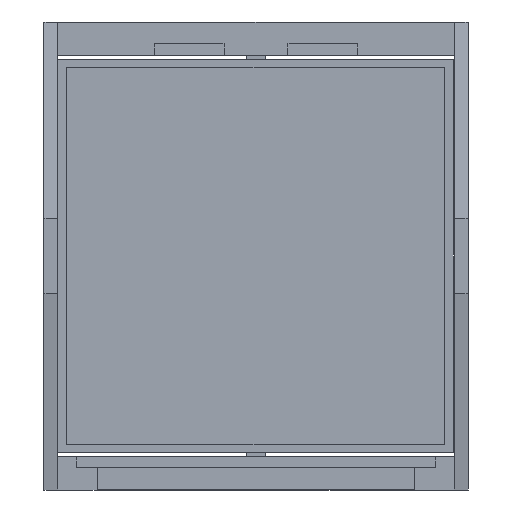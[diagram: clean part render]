
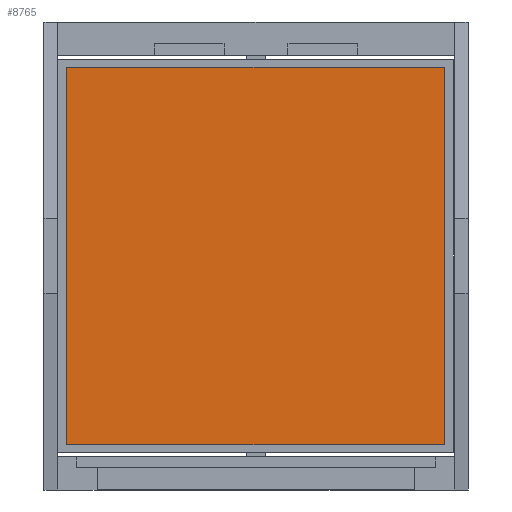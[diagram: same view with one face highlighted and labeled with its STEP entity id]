
A CAD part, front view. The second image highlights one B-rep face of the part: STEP entity #8765.
In plain terms, the highlighted planar face has unit normal (0, -1, 0).
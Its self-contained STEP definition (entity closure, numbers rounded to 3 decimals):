
#1337 = VERTEX_POINT ( 'NONE', #7698 ) ;
#1512 = CARTESIAN_POINT ( 'NONE',  ( -13.476, -2.324, 17.577 ) ) ;
#1551 = CARTESIAN_POINT ( 'NONE',  ( 24.524, -2.324, -20.423 ) ) ;
#1878 = CARTESIAN_POINT ( 'NONE',  ( -13.476, -2.324, -20.423 ) ) ;
#2065 = EDGE_CURVE ( 'NONE', #3588, #4403, #2901, .T. ) ;
#2131 = DIRECTION ( 'NONE',  ( 1., 0., 0. ) ) ;
#2601 = EDGE_CURVE ( 'NONE', #3592, #3588, #5389, .T. ) ;
#2870 = VECTOR ( 'NONE', #5008, 1000. ) ;
#2881 = CARTESIAN_POINT ( 'NONE',  ( -13.476, -2.324, 17.577 ) ) ;
#2901 = LINE ( 'NONE', #1512, #5137 ) ;
#3191 = DIRECTION ( 'NONE',  ( -1., 0., 0. ) ) ;
#3380 = VECTOR ( 'NONE', #6845, 1000. ) ;
#3495 = CARTESIAN_POINT ( 'NONE',  ( 24.524, -2.324, 17.577 ) ) ;
#3547 = DIRECTION ( 'NONE',  ( 0., 1., 0. ) ) ;
#3588 = VERTEX_POINT ( 'NONE', #5837 ) ;
#3592 = VERTEX_POINT ( 'NONE', #7390 ) ;
#3835 = CARTESIAN_POINT ( 'NONE',  ( -13.476, -2.324, -20.423 ) ) ;
#3921 = ORIENTED_EDGE ( 'NONE', *, *, #2601, .F. ) ;
#4184 = FACE_OUTER_BOUND ( 'NONE', #5945, .T. ) ;
#4367 = ORIENTED_EDGE ( 'NONE', *, *, #7871, .F. ) ;
#4403 = VERTEX_POINT ( 'NONE', #3495 ) ;
#5008 = DIRECTION ( 'NONE',  ( 0., 0., -1. ) ) ;
#5137 = VECTOR ( 'NONE', #2131, 1000. ) ;
#5389 = LINE ( 'NONE', #1878, #3380 ) ;
#5772 = LINE ( 'NONE', #1551, #2870 ) ;
#5837 = CARTESIAN_POINT ( 'NONE',  ( -13.476, -2.324, 17.577 ) ) ;
#5945 = EDGE_LOOP ( 'NONE', ( #3921, #4367, #7533, #7582 ) ) ;
#6206 = PLANE ( 'NONE',  #6301 ) ;
#6301 = AXIS2_PLACEMENT_3D ( 'NONE', #2881, #3547, #7315 ) ;
#6407 = EDGE_CURVE ( 'NONE', #4403, #1337, #5772, .T. ) ;
#6845 = DIRECTION ( 'NONE',  ( 0., 0., 1. ) ) ;
#7315 = DIRECTION ( 'NONE',  ( 0., 0., 1. ) ) ;
#7390 = CARTESIAN_POINT ( 'NONE',  ( -13.476, -2.324, -20.423 ) ) ;
#7508 = LINE ( 'NONE', #3835, #9049 ) ;
#7533 = ORIENTED_EDGE ( 'NONE', *, *, #6407, .F. ) ;
#7582 = ORIENTED_EDGE ( 'NONE', *, *, #2065, .F. ) ;
#7698 = CARTESIAN_POINT ( 'NONE',  ( 24.524, -2.324, -20.423 ) ) ;
#7871 = EDGE_CURVE ( 'NONE', #1337, #3592, #7508, .T. ) ;
#8765 = ADVANCED_FACE ( 'NONE', ( #4184 ), #6206, .F. ) ;
#9049 = VECTOR ( 'NONE', #3191, 1000. ) ;
